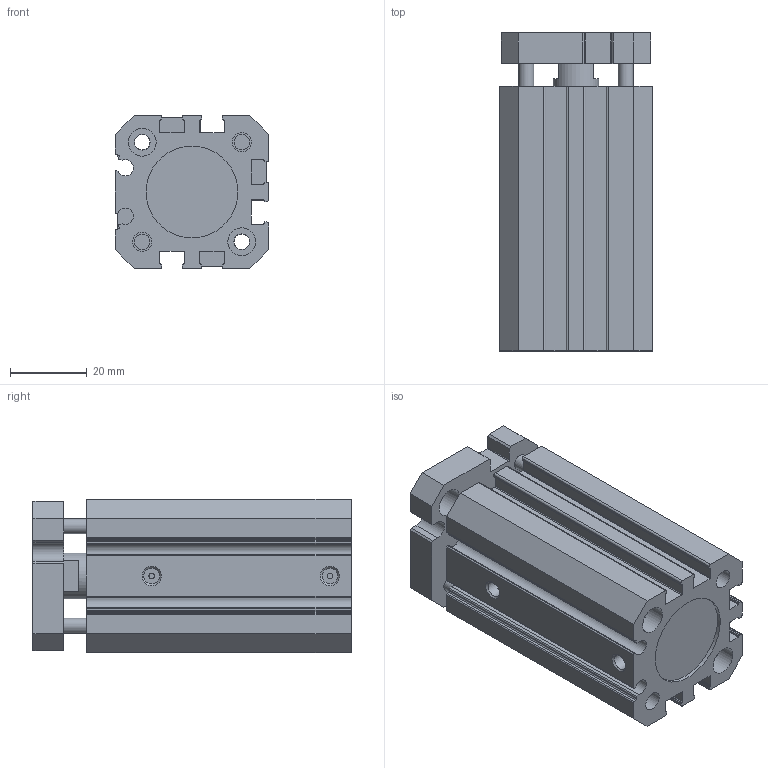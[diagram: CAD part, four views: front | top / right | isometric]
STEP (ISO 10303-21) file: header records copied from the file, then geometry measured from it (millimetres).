
FILE_DESCRIPTION( ( 'STEP AP214' ), '1' );
FILE_NAME( 'C:/Users/emc02044/Desktop/SFM/SFM25X30-S.stp', '2026-07-24T11:23:02', ( 'License CC BY-ND 4.0' ), ( 'CADENAS' ), ' ', 'PARTsolutions', ' ' );
FILE_SCHEMA( ( 'AUTOMOTIVE_DESIGN { 1 0 10303 214 1 1 1 1 }' ) );
Length unit declared in the file: millimetre
Products named in the file (4): SFM25X30-S ()(0); _SFM25X30-S()(0)_DUMMY; _SFM-25*30-MAGNET-THREAD; _SFM25X30(0)._ROD
Assembly tree (3 placements, depth 2):
  SFM25X30-S ()(0)
    _SFM25X30-S()(0)_DUMMY
    _SFM-25*30-MAGNET-THREAD
    _SFM25X30(0)._ROD
Bounding box: 40 x 83 x 40 mm (x, y, z)
Volume: 94249.8 mm3; surface area: 36081.2 mm2
Topology: 2 solids, 2 shells, 278 faces, 716 edges, 478 vertices
Faces by surface type: plane 160, cylinder 114, cone 4
Full cylindrical faces by diameter (mm): 1 x2, 1.5 x2, 4 x8, 4.134 x8, 5 x8, 7.3 x4, 7.5 x2, 12 x3, 13 x1, 16.667 x1, 24 x2
Entity records: 10584 total; most frequent: DIRECTION 1466, CARTESIAN_POINT 1423, ORIENTED_EDGE 1334, EDGE_CURVE 667, AXIS2_PLACEMENT_3D 517, VERTEX_POINT 473, LINE 432, VECTOR 432
